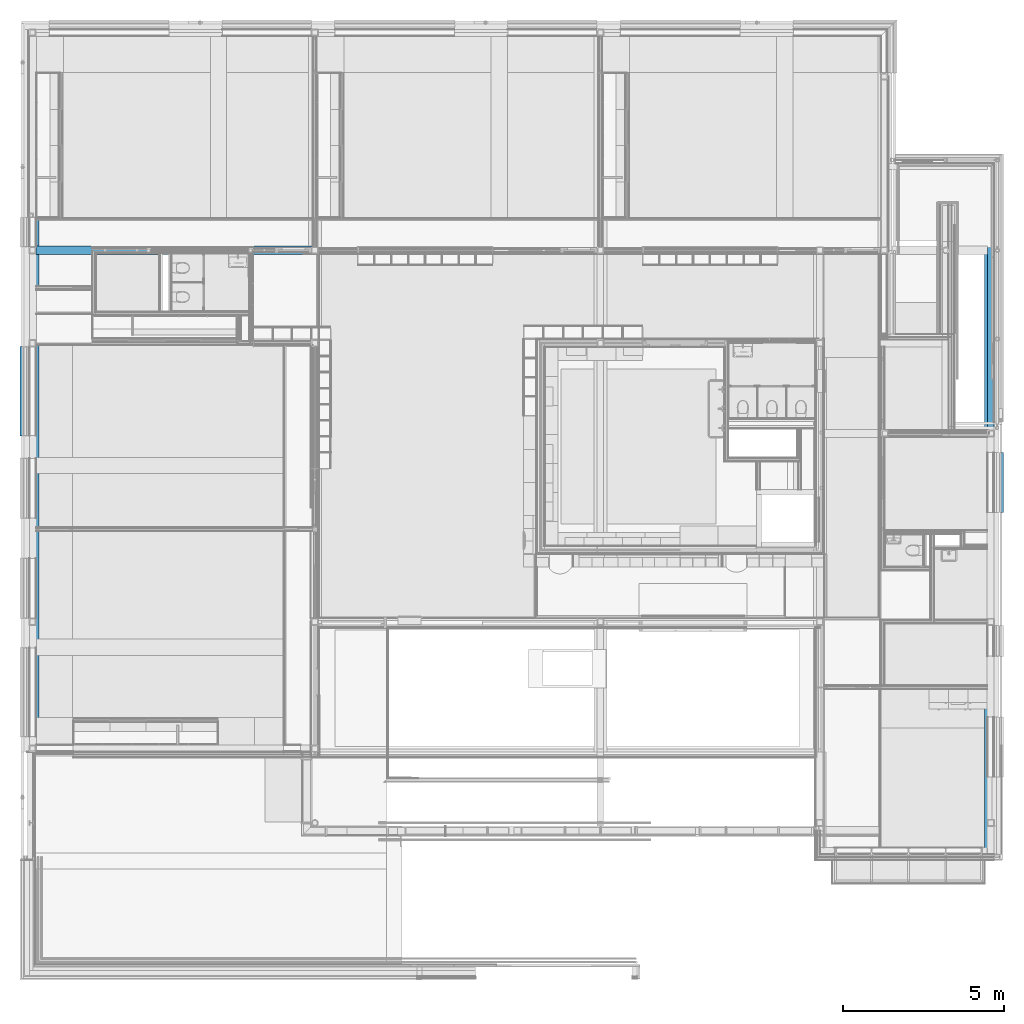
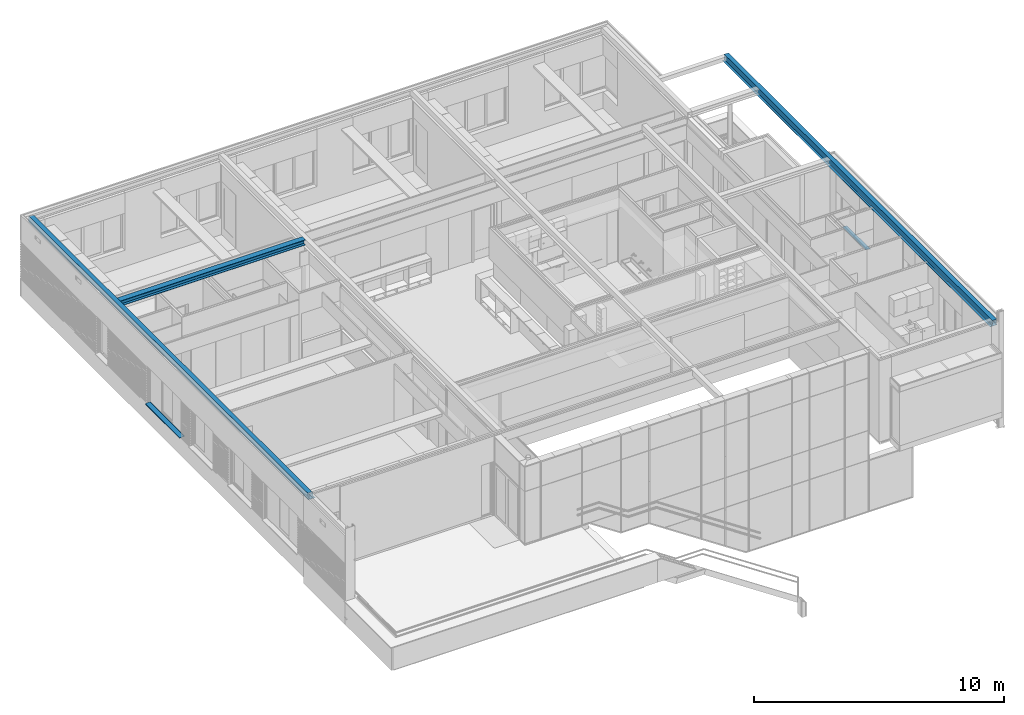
# One storey, part 21 of 137: 5 beams.
"""IFC2X3 building model written with IfcOpenShell, lengths in millimetres."""

from ifc_helpers import new_model, entity, si_unit, converted_unit, derived_unit, money_unit, direction, frame, origin_with_axes, place, context, subcontext, project, spatial, faceted_brep, material, type_object, element, save


model = new_model("IFC2X3")

# Units and contexts
model_context = context("Model", 3, precision=0.01, world=origin_with_axes(), true_north=direction((0.0, 1.0)))
body_context = subcontext(model_context, "Body", "Model", "MODEL_VIEW")
ifc_project = project(units=[si_unit("LENGTHUNIT", "METRE", prefix="MILLI"), si_unit("AREAUNIT", "SQUARE_METRE"), si_unit("VOLUMEUNIT", "CUBIC_METRE"), converted_unit("PLANEANGLEUNIT", "DEGREE", entity("IfcPlaneAngleMeasure", 0.0174532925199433), si_unit("PLANEANGLEUNIT", "RADIAN"), dimensions=[0, 0, 0, 0, 0, 0, 0]), money_unit("EUR"), converted_unit("TIMEUNIT", "Year", entity("IfcTimeMeasure", 31556926.0), si_unit("TIMEUNIT", "SECOND"), dimensions=[0, 0, 1, 0, 0, 0, 0]), si_unit("MASSUNIT", "GRAM", prefix="KILO"), si_unit("THERMODYNAMICTEMPERATUREUNIT", "DEGREE_CELSIUS"), si_unit("LUMINOUSINTENSITYUNIT", "LUMEN"), si_unit("ENERGYUNIT", "JOULE", prefix="MEGA"), derived_unit("THERMALCONDUCTANCEUNIT", [(si_unit("POWERUNIT", "WATT"), 1), (si_unit("LENGTHUNIT", "METRE"), -1), (si_unit("THERMODYNAMICTEMPERATUREUNIT", "KELVIN"), -1)]), derived_unit("SPECIFICHEATCAPACITYUNIT", [(si_unit("ENERGYUNIT", "JOULE"), 1), (si_unit("MASSUNIT", "GRAM", prefix="KILO"), -1), (si_unit("THERMODYNAMICTEMPERATUREUNIT", "KELVIN"), -1)]), derived_unit("MASSDENSITYUNIT", [(si_unit("MASSUNIT", "GRAM", prefix="KILO"), 1), (si_unit("VOLUMEUNIT", "CUBIC_METRE"), -1)])], contexts=[model_context])

# Site, building, storey
site_placement = place(None, origin_with_axes())
site = spatial("IfcSite", under=ifc_project, at=site_placement, Name="Site", CompositionType="ELEMENT")
building_placement = place(site_placement, origin_with_axes())
building = spatial("IfcBuilding", under=site, at=building_placement, Name="Naam gebouw", CompositionType="ELEMENT")
storey_placement = place(building_placement, frame((0.0, 0.0, 3960.0), z_axis=(0.0, 0.0, 1.0), x_axis=(1.0, 0.0, 0.0)))
storey = spatial("IfcBuildingStorey", under=building, at=storey_placement, Name="1e verdieping", CompositionType="ELEMENT", Elevation=3960.0)

# Beams
ifc_material_1 = material(Name="Metaal - Staal C")
beam_type_1 = type_object("IfcBeamType", Name="HEB260 260 x 260", PredefinedType="BEAM")
beam_1_placement = place(storey_placement, frame((201.0000004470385, 22324.97621406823, 3730.0), z_axis=(0.0, 0.0, 1.0), x_axis=(0.0, -1.0, 0.0)))
element("IfcBeam", 1, at=beam_1_placement, inside=storey, type_object=beam_type_1, material=ifc_material_1, Name="h METAAL_Regenwaterafvoer-x", ObjectType="BEAM", context=body_context, shape_type="Brep", body=[
    faceted_brep([(4.999999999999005, 0.0, -112.4999999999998), (4.999999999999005, 3575.040446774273, -112.4999999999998), (4.999999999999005, 3599.989462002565, -92.69061219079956), (4.999999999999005, 3615.718012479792, -112.4999999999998), (4.999999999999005, 8548.01097105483, -112.4999999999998), (4.999999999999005, 8548.01097105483, 112.4999999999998), (4.999999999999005, 0.0, 112.4999999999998), (15.00000000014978, 3615.718012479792, -112.4999999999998), (15.00000000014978, 3575.040446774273, -112.4999999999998), (129.999999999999, 0.0, -112.4999999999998), (129.999999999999, 8548.01097105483, -112.4999999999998), (1.49213974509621e-10, 3599.989462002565, -92.69061219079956), (15.00000000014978, 3552.999999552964, -129.9999999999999), (1.49213974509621e-10, 3552.999999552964, -129.9999999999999), (1.49213974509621e-10, 3629.61292109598, -129.9999999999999), (15.00000000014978, 3629.61292109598, -129.9999999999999), (-4.999999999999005, 8548.01097105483, -112.4999999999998), (-4.999999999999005, 8548.01097105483, 112.4999999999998), (-129.999999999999, 8548.01097105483, 112.4999999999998), (-129.999999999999, 8548.01097105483, 129.9999999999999), (129.999999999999, 8548.01097105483, 129.9999999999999), (129.999999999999, 8548.01097105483, 112.4999999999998), (129.999999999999, 8548.01097105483, -129.9999999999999), (-129.999999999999, 8548.01097105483, -129.9999999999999), (-129.999999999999, 8548.01097105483, -112.4999999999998), (129.999999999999, 0.0, 112.4999999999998), (129.999999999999, 0.0, 129.9999999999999), (-129.999999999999, 0.0, 129.9999999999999), (-129.999999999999, 0.0, 112.4999999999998), (-4.999999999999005, 0.0, 112.4999999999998), (-4.999999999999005, 0.0, -112.4999999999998), (-129.999999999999, 0.0, -112.4999999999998), (-129.999999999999, 0.0, -129.9999999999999), (129.999999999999, 0.0, -129.9999999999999), (-15.00000000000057, 6593.999999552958, -129.9999999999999), (-15.00000000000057, 6517.387078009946, -129.9999999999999), (0.0, 6517.387078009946, -129.9999999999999), (0.0, 6593.999999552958, -129.9999999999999), (-4.999999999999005, 6571.95955233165, -112.4999999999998), (-4.999999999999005, 6547.01053710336, -92.69061219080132), (-4.999999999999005, 6531.281986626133, -112.4999999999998), (-15.00000000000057, 6531.281986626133, -112.4999999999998), (-15.00000000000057, 6571.959552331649, -112.4999999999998), (0.0, 6547.01053710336, -92.69061219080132)], [[[0, 1, 2, 3, 4, 5, 6]], [[7, 8, 1, 0, 9, 10, 4, 3]], [[11, 2, 1, 8, 12, 13]], [[11, 14, 15, 7, 3, 2]], [[16, 17, 18, 19, 20, 21, 5, 4, 10, 22, 23, 24]], [[21, 25, 6, 5]], [[6, 25, 26, 27, 28, 29, 30, 31, 32, 33, 9, 0]], [[7, 15, 12, 8]], [[10, 9, 33, 22]], [[22, 33, 32, 23], [34, 35, 36, 37], [13, 12, 15, 14]], [[11, 13, 14]], [[16, 38, 39, 40, 30, 29, 17]], [[17, 29, 28, 18]], [[18, 28, 27, 19]], [[19, 27, 26, 20]], [[20, 26, 25, 21]], [[23, 32, 31, 24]], [[31, 30, 40, 41, 42, 38, 16, 24]], [[42, 41, 35, 34]], [[35, 41, 40, 39, 43, 36]], [[36, 43, 37]], [[38, 42, 34, 37, 43, 39]]]),
])
beam_type_2 = type_object("IfcBeamType", Name="28 THQ enkele flens 03 315 x 275", PredefinedType="BEAM")
beam_2_placement = place(storey_placement, frame((29799.99999955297, 3599.999999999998, 3860.000001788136), z_axis=(0.0, 0.0, 1.0), x_axis=(1.0, 0.0, 0.0)))
element("IfcBeam", 2, at=beam_2_placement, inside=storey, type_object=beam_type_2, material=ifc_material_1, Name="h METAAL_Regenwaterafvoer-x", ObjectType="BEAM", context=body_context, shape_type="Brep", body=[
    faceted_brep([(90.0000004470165, 12959.99778166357, -275.0000000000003), (-89.99999955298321, 12959.99778166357, -275.0000000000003), (-89.99999955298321, 13139.99778166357, -275.0000000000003), (90.0000004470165, 13139.99778166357, -275.0000000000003), (90.0000004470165, 12959.99778166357, -264.9999999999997), (-89.99999955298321, 12959.99778166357, -264.9999999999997), (-89.99999955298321, 13139.99778166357, -264.9999999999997), (90.0000004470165, 13139.99778166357, -264.9999999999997)], [[[0, 1, 2, 3]], [[0, 4, 5, 1]], [[1, 5, 6, 2]], [[2, 6, 7, 3]], [[3, 7, 4, 0]], [[6, 5, 4, 7]]]),
    faceted_brep([(90.00000044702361, 7120.000110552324, -275.0000000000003), (-89.9999995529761, 7120.000110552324, -275.0000000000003), (-89.9999995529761, 7300.000110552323, -275.0000000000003), (90.00000044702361, 7300.000110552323, -275.0000000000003), (90.00000044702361, 7120.000110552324, -264.9999999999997), (-89.9999995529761, 7120.000110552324, -264.9999999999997), (-89.9999995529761, 7300.000110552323, -264.9999999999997), (90.00000044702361, 7300.000110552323, -264.9999999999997)], [[[0, 1, 2, 3]], [[0, 4, 5, 1]], [[1, 5, 6, 2]], [[2, 6, 7, 3]], [[3, 7, 4, 0]], [[6, 5, 4, 7]]]),
    faceted_brep([(90.00000044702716, 890.0000000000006, -275.0000000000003), (-89.99999955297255, 890.0000000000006, -275.0000000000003), (-89.99999955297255, 1070.0, -275.0000000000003), (90.00000044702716, 1070.0, -275.0000000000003), (90.00000044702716, 890.0000000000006, -264.9999999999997), (-89.99999955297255, 890.0000000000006, -264.9999999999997), (-89.99999955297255, 1070.0, -264.9999999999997), (90.00000044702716, 1070.0, -264.9999999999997)], [[[0, 1, 2, 3]], [[0, 4, 5, 1]], [[1, 5, 6, 2]], [[2, 6, 7, 3]], [[3, 7, 4, 0]], [[6, 5, 4, 7]]]),
    faceted_brep([(94.99999999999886, 1080.0, -260.0000017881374), (94.99999999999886, 880.0000000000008, -260.0000017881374), (94.99999999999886, 880.0000000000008, -264.9999999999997), (94.99999999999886, 0.0, -264.9999999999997), (94.99999999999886, 0.0, -14.99999999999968), (94.99999999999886, 21424.97621406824, -14.99999999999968), (94.99999999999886, 21424.97621406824, -264.9999999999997), (94.99999999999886, 13149.99778166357, -264.9999999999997), (94.99999999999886, 13149.99778166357, -260.0000017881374), (94.99999999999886, 12949.99778166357, -260.0000017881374), (94.99999999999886, 12949.99778166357, -264.9999999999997), (94.99999999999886, 7310.000110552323, -264.9999999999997), (94.99999999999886, 7310.000110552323, -260.0000017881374), (94.99999999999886, 7110.000110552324, -260.0000017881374), (94.99999999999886, 7110.000110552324, -264.9999999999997), (94.99999999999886, 1080.0, -264.9999999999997), (100.0000004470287, 880.0000000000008, -260.0000017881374), (100.0000004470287, 1080.0, -260.0000017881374), (100.0000004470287, 880.0000000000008, -275.0000000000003), (-99.99999955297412, 880.0000000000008, -275.0000000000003), (-99.99999955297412, 880.0000000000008, -260.0000017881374), (-94.99999999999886, 880.0000000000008, -260.0000017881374), (-94.99999999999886, 880.0000000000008, -264.9999999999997), (-94.99999999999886, 0.0, -264.9999999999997), (-100.9999999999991, 0.0, -264.9999999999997), (-199.0000044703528, 0.0, -264.9999999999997), (-199.0000044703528, 0.0, -275.0000000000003), (115.9999999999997, 0.0, -275.0000000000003), (115.9999999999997, 0.0, -264.9999999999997), (100.9999999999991, 0.0, -264.9999999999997), (100.9999999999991, 0.0, 0.0), (-100.9999999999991, 0.0, 0.0), (-94.99999999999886, 0.0, -14.99999999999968), (-94.99999999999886, 21424.97621406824, -14.99999999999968), (100.9999999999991, 21424.97621406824, 0.0), (100.9999999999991, 21424.97621406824, -264.9999999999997), (115.9999999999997, 21424.97621406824, -264.9999999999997), (115.9999999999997, 21424.97621406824, -275.0000000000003), (-199.0000044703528, 21424.97621406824, -275.0000000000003), (-199.0000044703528, 21424.97621406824, -264.9999999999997), (-100.9999999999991, 21424.97621406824, -264.9999999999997), (-100.9999999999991, 21424.97621406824, 0.0), (-94.99999999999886, 21424.97621406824, -264.9999999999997), (-94.99999999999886, 13149.99778166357, -264.9999999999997), (-99.99999955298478, 13149.99778166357, -260.0000017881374), (-99.99999955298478, 13149.99778166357, -275.0000000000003), (100.0000004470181, 13149.99778166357, -275.0000000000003), (100.0000004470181, 13149.99778166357, -260.0000017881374), (-94.99999999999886, 13149.99778166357, -260.0000017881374), (100.0000004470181, 12949.99778166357, -260.0000017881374), (100.0000004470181, 12949.99778166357, -275.0000000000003), (-99.99999955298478, 12949.99778166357, -275.0000000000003), (-99.99999955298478, 12949.99778166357, -260.0000017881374), (-94.99999999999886, 12949.99778166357, -260.0000017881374), (-94.99999999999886, 12949.99778166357, -264.9999999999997), (-94.99999999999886, 7310.000110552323, -264.9999999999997), (-99.99999955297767, 7310.000110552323, -260.0000017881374), (-99.99999955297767, 7310.000110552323, -275.0000000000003), (100.0000004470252, 7310.000110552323, -275.0000000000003), (100.0000004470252, 7310.000110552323, -260.0000017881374), (-94.99999999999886, 7310.000110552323, -260.0000017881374), (100.0000004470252, 7110.000110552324, -260.0000017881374), (100.0000004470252, 7110.000110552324, -275.0000000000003), (-99.99999955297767, 7110.000110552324, -275.0000000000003), (-99.99999955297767, 7110.000110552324, -260.0000017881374), (-94.99999999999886, 7110.000110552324, -260.0000017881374), (-94.99999999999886, 7110.000110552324, -264.9999999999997), (-94.99999999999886, 1080.0, -264.9999999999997), (-99.99999955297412, 1080.0, -260.0000017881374), (-99.99999955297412, 1080.0, -275.0000000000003), (100.0000004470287, 1080.0, -275.0000000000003), (-94.99999999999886, 1080.0, -260.0000017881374), (-106.1850666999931, 13064.99778166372, -275.0000000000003), (-173.1113046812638, 13064.99778166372, -275.0000000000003), (-173.1113046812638, 13049.99778166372, -275.0000000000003), (-106.1850666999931, 13049.99778166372, -275.0000000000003), (-118.5551965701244, 13064.99778166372, -264.9999999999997), (-118.5551965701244, 13049.99778166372, -264.9999999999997), (-165.0273151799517, 13049.99778166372, -264.9999999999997), (-165.0273151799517, 13064.99778166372, -264.9999999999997)], [[[0, 1, 2, 3, 4, 5, 6, 7, 8, 9, 10, 11, 12, 13, 14, 15]], [[16, 1, 0, 17]], [[16, 18, 19, 20, 21, 22, 2, 1]], [[3, 2, 22, 23]], [[24, 25, 26, 27, 28, 29, 30, 31], [23, 32, 4, 3]], [[5, 4, 32, 33]], [[34, 35, 36, 37, 38, 39, 40, 41], [5, 33, 42, 6]], [[42, 43, 7, 6]], [[44, 45, 46, 47, 8, 7, 43, 48]], [[49, 9, 8, 47]], [[49, 50, 51, 52, 53, 54, 10, 9]], [[54, 55, 11, 10]], [[56, 57, 58, 59, 12, 11, 55, 60]], [[61, 13, 12, 59]], [[61, 62, 63, 64, 65, 66, 14, 13]], [[66, 67, 15, 14]], [[68, 69, 70, 17, 0, 15, 67, 71]], [[17, 70, 18, 16]], [[37, 27, 26, 38], [72, 73, 74, 75], [45, 51, 50, 46], [57, 63, 62, 58], [69, 19, 18, 70]], [[20, 19, 69, 68]], [[68, 71, 21, 20]], [[21, 71, 67, 66, 65, 60, 55, 54, 53, 48, 43, 42, 33, 32, 23, 22]], [[39, 25, 24, 40], [76, 77, 78, 79]], [[38, 26, 25, 39]], [[36, 28, 27, 37]], [[35, 29, 28, 36]], [[34, 30, 29, 35]], [[41, 31, 30, 34]], [[40, 24, 31, 41]], [[52, 51, 45, 44]], [[47, 46, 50, 49]], [[44, 48, 53, 52]], [[64, 63, 57, 56]], [[59, 58, 62, 61]], [[56, 60, 65, 64]], [[76, 79, 73, 72]], [[74, 73, 79, 78]], [[78, 77, 75, 74]], [[77, 76, 72, 75]]]),
])
beam_3_placement = place(storey_placement, frame((100.0000004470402, 29175.0, 3860.000001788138), z_axis=(0.0, 0.0, 1.0), x_axis=(-1.0, 0.0, 0.0)))
element("IfcBeam", 3, at=beam_3_placement, inside=storey, type_object=beam_type_2, material=ifc_material_1, Name="h METAAL_Regenwaterafvoer-x", ObjectType="BEAM", context=body_context, shape_type="Brep", body=[
    faceted_brep([(-89.99999955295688, 22385.0, -275.0000000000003), (90.0000004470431, 22385.0, -275.0000000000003), (90.00000044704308, 22205.0, -275.0000000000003), (-89.99999955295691, 22205.0, -275.0000000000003), (-89.99999955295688, 22385.0, -264.9999999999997), (90.0000004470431, 22385.0, -264.9999999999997), (90.00000044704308, 22205.0, -264.9999999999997), (-89.99999955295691, 22205.0, -264.9999999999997)], [[[0, 1, 2, 3]], [[0, 4, 5, 1]], [[1, 5, 6, 2]], [[2, 6, 7, 3]], [[3, 7, 4, 0]], [[6, 5, 4, 7]]]),
    faceted_brep([(-89.99999955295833, 9815.000188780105, -275.0000000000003), (90.00000044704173, 9815.000188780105, -275.0000000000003), (90.0000004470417, 9635.000188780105, -275.0000000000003), (-89.99999955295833, 9635.000188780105, -275.0000000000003), (-89.99999955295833, 9815.000188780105, -264.9999999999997), (90.00000044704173, 9815.000188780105, -264.9999999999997), (90.0000004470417, 9635.000188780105, -264.9999999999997), (-89.99999955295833, 9635.000188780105, -264.9999999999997)], [[[0, 1, 2, 3]], [[0, 4, 5, 1]], [[1, 5, 6, 2]], [[2, 6, 7, 3]], [[3, 7, 4, 0]], [[6, 5, 4, 7]]]),
    faceted_brep([(-89.99999955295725, 18454.99988944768, -275.0000000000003), (90.0000004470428, 18454.99988944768, -275.0000000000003), (90.00000044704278, 18274.99988944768, -275.0000000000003), (-89.99999955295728, 18274.99988944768, -275.0000000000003), (-89.99999955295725, 18454.99988944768, -264.9999999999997), (90.0000004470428, 18454.99988944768, -264.9999999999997), (90.00000044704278, 18274.99988944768, -264.9999999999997), (-89.99999955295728, 18274.99988944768, -264.9999999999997)], [[[0, 1, 2, 3]], [[0, 4, 5, 1]], [[1, 5, 6, 2]], [[2, 6, 7, 3]], [[3, 7, 4, 0]], [[6, 5, 4, 7]]]),
    faceted_brep([(-89.99999955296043, 6940.000152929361, -275.0000000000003), (90.0000004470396, 6940.000152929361, -275.0000000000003), (90.00000044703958, 6760.000152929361, -275.0000000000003), (-89.99999955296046, 6760.000152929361, -275.0000000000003), (-89.99999955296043, 6940.000152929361, -264.9999999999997), (90.0000004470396, 6940.000152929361, -264.9999999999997), (90.00000044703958, 6760.000152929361, -264.9999999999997), (-89.99999955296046, 6760.000152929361, -264.9999999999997)], [[[0, 1, 2, 3]], [[0, 4, 5, 1]], [[1, 5, 6, 2]], [[2, 6, 7, 3]], [[3, 7, 4, 0]], [[6, 5, 4, 7]]]),
    faceted_brep([(-89.9999995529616, 190.0000000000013, -275.0000000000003), (90.00000044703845, 190.0000000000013, -275.0000000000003), (90.00000044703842, 10.00000000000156, -275.0000000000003), (-89.99999955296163, 10.00000000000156, -275.0000000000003), (-89.9999995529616, 190.0000000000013, -264.9999999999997), (90.00000044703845, 190.0000000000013, -264.9999999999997), (90.00000044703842, 10.00000000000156, -264.9999999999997), (-89.99999955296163, 10.00000000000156, -264.9999999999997)], [[[0, 1, 2, 3]], [[0, 4, 5, 1]], [[1, 5, 6, 2]], [[2, 6, 7, 3]], [[3, 7, 4, 0]], [[6, 5, 4, 7]]]),
    faceted_brep([(-199.0000044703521, 0.0, -275.0000000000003), (-99.99999955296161, 0.0, -275.0000000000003), (-99.99999955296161, 0.0, -260.0000017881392), (-101.0000000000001, 0.0, -260.0000017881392), (-101.0000000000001, 0.0, -264.9999999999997), (-199.0000044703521, 0.0, -264.9999999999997), (100.0000004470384, 200.0000000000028, -275.0000000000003), (-99.99999955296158, 200.0000000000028, -275.0000000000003), (-199.0000044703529, 22395.00000000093, -275.0000000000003), (-99.9999995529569, 22395.0, -275.0000000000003), (-99.99999955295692, 22195.0, -275.0000000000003), (100.0000004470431, 22195.0, -275.0000000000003), (100.0000004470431, 22395.0, -275.0000000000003), (115.9999999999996, 22395.00000000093, -275.0000000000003), (116.0000000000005, 411.6161418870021, -275.0000000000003), (115.0000004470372, 411.6161418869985, -275.0000000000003), (115.0000004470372, 202.1517064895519, -275.0000000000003), (116.0000000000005, 202.1517064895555, -275.0000000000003), (116.0000000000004, 0.0, -275.0000000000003), (100.0000004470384, 0.0, -275.0000000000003), (115.0000004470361, 5452.816600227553, -275.0000000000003), (115.0000004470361, 5662.281035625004, -275.0000000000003), (100.0000004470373, 5662.281035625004, -275.0000000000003), (100.0000004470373, 5452.816600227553, -275.0000000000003), (100.000000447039, 5705.000152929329, -275.0000000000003), (100.000000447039, 5825.000152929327, -275.0000000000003), (-19.99999955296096, 5825.000152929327, -275.0000000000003), (-19.99999955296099, 5705.000152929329, -275.0000000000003), (100.0000004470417, 9625.000188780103, -275.0000000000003), (100.0000004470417, 9825.000188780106, -275.0000000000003), (-99.99999955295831, 9825.000188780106, -275.0000000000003), (-99.99999955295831, 9625.000188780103, -275.0000000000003), (100.0000004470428, 18264.99988944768, -275.0000000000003), (100.0000004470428, 18464.99988944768, -275.0000000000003), (-99.99999955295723, 18464.99988944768, -275.0000000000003), (-99.99999955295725, 18264.99988944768, -275.0000000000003), (100.0000004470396, 6750.00015292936, -275.0000000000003), (100.0000004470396, 6950.000152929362, -275.0000000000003), (-99.99999955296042, 6950.000152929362, -275.0000000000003), (-99.99999955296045, 6750.00015292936, -275.0000000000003), (-99.99999955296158, 200.0000000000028, -260.0000017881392), (-99.99999955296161, 89.99999999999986, -260.0000017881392), (-100.9999999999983, 89.99999999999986, -260.0000017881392), (-100.9999999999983, 10.00000000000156, -246.000001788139), (-100.9999999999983, 10.00000000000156, -14.00000178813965), (-100.9999999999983, 89.99999999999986, -14.00000178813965), (-101.0000000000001, 89.99999999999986, -1.788139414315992e-06), (-100.9999999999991, 22305.00000000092, -1.550729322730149e-06), (-100.9999999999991, 22305.00000000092, -14.00000178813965), (-100.9999999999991, 22385.00000000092, -14.00000178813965), (-100.9999999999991, 22385.00000000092, -246.000001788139), (-100.9999999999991, 22305.00000000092, -246.000001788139), (-100.9999999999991, 22305.00000000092, -260.0000017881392), (-100.9999999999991, 22395.00000000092, -260.0000017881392), (-100.9999999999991, 22395.00000000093, -264.9999999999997), (-100.9999999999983, 89.99999999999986, -246.000001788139), (-199.0000044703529, 22395.00000000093, -264.9999999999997), (100.0000004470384, 200.0000000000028, -260.0000017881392), (94.99999999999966, 200.0000000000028, -260.0000017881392), (94.99999999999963, 200.0000000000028, -264.9999999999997), (-94.99999999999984, 200.0000000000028, -264.9999999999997), (-94.99999999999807, 200.0000000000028, -260.0000017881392), (-99.9999995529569, 22395.0, -260.0000017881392), (-99.99999955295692, 22195.0, -260.0000017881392), (-99.9999995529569, 22305.00000000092, -260.0000017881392), (100.0000004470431, 22195.0, -260.0000017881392), (-94.9999999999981, 22195.0, -260.0000017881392), (-94.99999999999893, 22195.0, -264.9999999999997), (94.99999999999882, 22195.0, -264.9999999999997), (94.99999999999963, 22195.0, -260.0000017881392), (100.0000004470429, 22395.00000000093, -1.788139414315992e-06), (100.0000004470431, 22305.00000000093, -260.0000017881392), (100.0000004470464, 22305.00000000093, -246.000001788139), (100.0000004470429, 22385.00000000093, -246.000001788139), (100.0000004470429, 22385.00000000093, -14.00000178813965), (100.0000004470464, 22305.00000000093, -14.00000178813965), (100.0000004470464, 22305.00000000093, -1.788139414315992e-06), (100.999999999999, 22395.00000000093, 0.0), (100.999999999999, 22395.00000000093, -264.9999999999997), (115.9999999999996, 22395.00000000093, -264.9999999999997), (116.0000000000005, 397.3091530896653, -264.9999999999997), (115.0000004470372, 397.3091530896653, -264.9999999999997), (115.0000004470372, 187.8447176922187, -264.9999999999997), (116.0000000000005, 187.8447176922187, -264.9999999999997), (116.0000000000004, 0.0, -264.9999999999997), (100.0000004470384, 0.0, -1.788139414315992e-06), (100.9999999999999, 0.0, -264.9999999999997), (100.9999999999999, 0.0, 0.0), (100.0000004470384, 89.99999999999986, -246.000001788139), (100.0000004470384, 89.99999999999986, -260.0000017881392), (100.0000004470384, 89.99999999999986, -1.788139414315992e-06), (100.0000004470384, 89.99999999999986, -14.00000178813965), (100.0000004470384, 10.00000000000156, -14.00000178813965), (100.0000004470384, 10.00000000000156, -246.000001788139), (115.0000004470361, 5676.58802442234, -264.9999999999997), (115.0000004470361, 5467.123589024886, -264.9999999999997), (101.0000000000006, 5676.58802442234, -264.9999999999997), (101.0000000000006, 5799.373529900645, -179.1779537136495), (100.0000004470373, 5799.373529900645, -179.1779537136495), (100.0000004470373, 5730.626775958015, -80.82204986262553), (101.0000000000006, 5730.626775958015, -80.82204986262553), (101.0000000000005, 5467.12358902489, -264.9999999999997), (100.000000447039, 5825.000152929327, -260.0000017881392), (100.000000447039, 5705.000152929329, -260.0000017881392), (94.99999999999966, 5825.000152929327, -260.0000017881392), (94.99999999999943, 5825.000152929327, -264.9999999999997), (-19.99999955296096, 5825.000152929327, -264.9999999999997), (-19.99999955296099, 5705.000152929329, -264.9999999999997), (94.99999999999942, 5705.000152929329, -264.9999999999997), (94.99999999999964, 5705.000152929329, -260.0000017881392), (100.0000004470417, 9825.000188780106, -260.0000017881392), (100.0000004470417, 9625.000188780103, -260.0000017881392), (-99.99999955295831, 9825.000188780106, -260.0000017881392), (94.99999999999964, 9825.000188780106, -260.0000017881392), (94.99999999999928, 9825.000188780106, -264.9999999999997), (-94.99999999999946, 9825.000188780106, -264.9999999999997), (-94.9999999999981, 9825.000188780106, -260.0000017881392), (-99.99999955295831, 9625.000188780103, -260.0000017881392), (-94.99999999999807, 9625.000188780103, -260.0000017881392), (-94.99999999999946, 9625.000188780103, -264.9999999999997), (94.99999999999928, 9625.000188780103, -264.9999999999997), (94.99999999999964, 9625.000188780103, -260.0000017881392), (100.0000004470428, 18464.99988944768, -260.0000017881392), (100.0000004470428, 18264.99988944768, -260.0000017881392), (-99.99999955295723, 18464.99988944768, -260.0000017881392), (94.99999999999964, 18464.99988944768, -260.0000017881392), (94.99999999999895, 18464.99988944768, -264.9999999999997), (-94.99999999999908, 18464.99988944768, -264.9999999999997), (-94.99999999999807, 18464.99988944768, -260.0000017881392), (-99.99999955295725, 18264.99988944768, -260.0000017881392), (-94.99999999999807, 18264.99988944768, -260.0000017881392), (-94.99999999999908, 18264.99988944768, -264.9999999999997), (94.99999999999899, 18264.99988944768, -264.9999999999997), (94.99999999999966, 18264.99988944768, -260.0000017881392), (100.0000004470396, 6950.000152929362, -260.0000017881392), (100.0000004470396, 6750.00015292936, -260.0000017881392), (-99.99999955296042, 6950.000152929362, -260.0000017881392), (94.99999999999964, 6950.000152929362, -260.0000017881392), (94.99999999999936, 6950.000152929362, -264.9999999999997), (-94.99999999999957, 6950.000152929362, -264.9999999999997), (-94.99999999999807, 6950.000152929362, -260.0000017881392), (-99.99999955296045, 6750.00015292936, -260.0000017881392), (-94.9999999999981, 6750.00015292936, -260.0000017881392), (-94.99999999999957, 6750.00015292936, -264.9999999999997), (94.9999999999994, 6750.00015292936, -264.9999999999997), (94.99999999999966, 6750.00015292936, -260.0000017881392), (-94.9999999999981, 89.99999999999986, -260.0000017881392), (-94.9999999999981, 89.99999999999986, -246.000001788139), (-94.9999999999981, 10.00000000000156, -246.000001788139), (-94.99999999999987, 9.999999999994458, -14.99999999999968), (94.99999999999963, 9.999999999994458, -14.99999999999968), (94.99999999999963, 10.00000000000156, -246.000001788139), (94.99999999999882, 22385.00000000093, -14.99999999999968), (-94.9999999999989, 22385.00000000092, -14.99999999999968), (-94.9999999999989, 22385.00000000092, -246.000001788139), (94.99999999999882, 22385.00000000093, -246.000001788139), (-94.9999999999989, 22305.00000000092, -246.000001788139), (-94.9999999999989, 22305.00000000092, -260.0000017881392), (94.99999999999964, 89.99999999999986, -260.0000017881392), (94.99999999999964, 89.99999999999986, -246.000001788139), (94.9999999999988, 22305.00000000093, -246.000001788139), (94.9999999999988, 22305.00000000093, -260.0000017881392)], [[[0, 1, 2, 3, 4, 5]], [[6, 7, 1, 0, 8, 9, 10, 11, 12, 13, 14, 15, 16, 17, 18, 19], [20, 21, 22, 23], [24, 25, 26, 27], [28, 29, 30, 31], [32, 33, 34, 35], [36, 37, 38, 39]], [[40, 41, 2, 1, 7]], [[3, 2, 41, 42]], [[43, 44, 45, 46, 47, 48, 49, 50, 51, 52, 53, 54, 4, 3, 42, 55]], [[54, 56, 5, 4]], [[56, 8, 0, 5]], [[40, 7, 6, 57, 58, 59, 60, 61]], [[53, 62, 9, 8, 56, 54]], [[63, 10, 9, 62, 64]], [[65, 11, 10, 63, 66, 67, 68, 69]], [[70, 12, 11, 65, 71, 72, 73, 74, 75, 76]], [[13, 12, 70, 77, 78, 79]], [[13, 79, 80, 14]], [[15, 14, 80, 81]], [[16, 15, 81, 82]], [[17, 16, 82, 83]], [[84, 18, 17, 83]], [[85, 19, 18, 84, 86, 87]], [[88, 89, 57, 6, 19, 85, 90, 91, 92, 93]], [[94, 21, 20, 95]], [[21, 94, 96, 97, 98, 22]], [[99, 23, 22, 98]], [[23, 99, 100, 101, 95, 20]], [[102, 25, 24, 103]], [[104, 105, 106, 26, 25, 102]], [[26, 106, 107, 27]], [[27, 107, 108, 109, 103, 24]], [[110, 29, 28, 111]], [[112, 30, 29, 110, 113, 114, 115, 116]], [[117, 31, 30, 112]], [[111, 28, 31, 117, 118, 119, 120, 121]], [[122, 33, 32, 123]], [[124, 34, 33, 122, 125, 126, 127, 128]], [[129, 35, 34, 124]], [[123, 32, 35, 129, 130, 131, 132, 133]], [[134, 37, 36, 135]], [[136, 38, 37, 134, 137, 138, 139, 140]], [[141, 39, 38, 136]], [[135, 36, 39, 141, 142, 143, 144, 145]], [[61, 146, 41, 40]], [[42, 41, 146, 147, 55]], [[93, 92, 44, 43, 148, 149, 150, 151]], [[92, 91, 45, 44]], [[45, 91, 90, 46]], [[47, 46, 90, 85, 87, 77, 70, 76]], [[47, 76, 75, 48]], [[48, 75, 74, 49]], [[152, 153, 154, 50, 49, 74, 73, 155]], [[50, 154, 156, 51]], [[156, 157, 64, 52, 51]], [[52, 64, 62, 53]], [[147, 148, 43, 55]], [[57, 89, 158, 58]], [[59, 58, 158, 159, 151, 150, 152, 155, 160, 161, 69, 68, 126, 125, 133, 132, 114, 113, 121, 120, 138, 137, 145, 144, 105, 104, 109, 108]], [[143, 60, 59, 108, 107, 106, 105, 144]], [[146, 61, 60, 143, 142, 140, 139, 119, 118, 116, 115, 131, 130, 128, 127, 67, 66, 157, 156, 154, 153, 149, 148, 147]], [[63, 64, 157, 66]], [[67, 127, 126, 68]], [[65, 69, 161, 71]], [[72, 71, 161, 160]], [[155, 73, 72, 160]], [[77, 87, 86, 101, 100, 97, 96, 78]], [[81, 80, 79, 78, 96, 94, 95, 101, 86, 84, 83, 82]], [[159, 158, 89, 88]], [[88, 93, 151, 159]], [[98, 97, 100, 99]], [[103, 109, 104, 102]], [[111, 121, 113, 110]], [[114, 132, 131, 115]], [[112, 116, 118, 117]], [[119, 139, 138, 120]], [[123, 133, 125, 122]], [[124, 128, 130, 129]], [[135, 145, 137, 134]], [[136, 140, 142, 141]], [[153, 152, 150, 149]]]),
])
ifc_material_2 = material(Name="Metaal - Aluminium")
beam_type_3 = type_object("IfcBeamType", Name="41 Waterslag 218 x 75", PredefinedType="BEAM")
beam_4_placement = place(storey_placement, frame((30149.99999999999, 16065.99778166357, 750.0), z_axis=(0.0, 0.0, 1.0), x_axis=(-1.0, 0.0, 0.0)))
element("IfcBeam", 4, at=beam_4_placement, inside=storey, type_object=beam_type_3, material=ifc_material_2, Name="h4 Aluminium, aluminiumlegeringen_Regenwaterafvoer-x", ObjectType="BEAM", context=body_context, shape_type="Brep", body=[
    faceted_brep([(178.0000000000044, 0.0, 49.99999999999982), (178.0000000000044, 1870.000000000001, 49.99999999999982), (175.0000000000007, 1870.000000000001, 49.99999999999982), (175.0000000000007, 0.0, 49.99999999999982), (177.9999999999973, 0.0, 27.27462510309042), (177.9999999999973, 1870.000000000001, 27.27462510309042), (-36.99999999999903, 1870.000000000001, 12.08231741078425), (-36.99999999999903, 1870.000000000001, -21.99999999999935), (-21.99999999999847, 1870.000000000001, -21.99999999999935), (-21.99999999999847, 1870.000000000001, -24.99999999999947), (-39.99999999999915, 1870.000000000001, -24.99999999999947), (-39.99999999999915, 1870.000000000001, 15.00000000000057), (175.0000000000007, 1870.000000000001, 30.00000000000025), (175.0000000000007, 0.0, 30.00000000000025), (-39.99999999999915, 0.0, 15.00000000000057), (-39.99999999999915, 0.0, -24.99999999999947), (-21.99999999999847, 0.0, -24.99999999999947), (-21.99999999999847, 0.0, -21.99999999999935), (-36.99999999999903, 0.0, -21.99999999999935), (-36.99999999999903, 0.0, 12.08231741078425)], [[[0, 1, 2, 3]], [[4, 5, 1, 0]], [[2, 1, 5, 6, 7, 8, 9, 10, 11, 12]], [[3, 2, 12, 13]], [[4, 0, 3, 13, 14, 15, 16, 17, 18, 19]], [[19, 6, 5, 4]], [[18, 7, 6, 19]], [[17, 8, 7, 18]], [[16, 9, 8, 17]], [[15, 10, 9, 16]], [[14, 11, 10, 15]], [[13, 12, 11, 14]]]),
])
beam_5_placement = place(storey_placement, frame((-250.0000000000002, 16574.9998112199, 750.0), z_axis=(0.0, 0.0, 1.0), x_axis=(1.0, 0.0, 0.0)))
element("IfcBeam", 5, at=beam_5_placement, inside=storey, type_object=beam_type_3, material=ifc_material_2, Name="h4 Aluminium, aluminiumlegeringen_Regenwaterafvoer-x", ObjectType="BEAM", context=body_context, shape_type="Brep", body=[
    faceted_brep([(178.0000000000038, 0.0, 49.99999999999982), (178.0000000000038, 2769.999999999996, 49.99999999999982), (175.0000000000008, 2769.999999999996, 49.99999999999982), (175.0000000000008, 0.0, 49.99999999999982), (177.9999999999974, 0.0, 27.27462510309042), (177.9999999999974, 2769.999999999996, 27.27462510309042), (-36.99999999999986, 2769.999999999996, 12.08231741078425), (-36.99999999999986, 2769.999999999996, -21.99999999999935), (-21.9999999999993, 2769.999999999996, -21.99999999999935), (-21.9999999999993, 2769.999999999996, -24.99999999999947), (-39.99999999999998, 2769.999999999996, -24.99999999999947), (-39.99999999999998, 2769.999999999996, 15.00000000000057), (175.0000000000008, 2769.999999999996, 30.00000000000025), (175.0000000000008, 0.0, 30.00000000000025), (-39.99999999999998, 0.0, 15.00000000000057), (-39.99999999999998, 0.0, -24.99999999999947), (-21.9999999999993, 0.0, -24.99999999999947), (-21.9999999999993, 0.0, -21.99999999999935), (-36.99999999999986, 0.0, -21.99999999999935), (-36.99999999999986, 0.0, 12.08231741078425)], [[[0, 1, 2, 3]], [[4, 5, 1, 0]], [[2, 1, 5, 6, 7, 8, 9, 10, 11, 12]], [[3, 2, 12, 13]], [[4, 0, 3, 13, 14, 15, 16, 17, 18, 19]], [[19, 6, 5, 4]], [[18, 7, 6, 19]], [[17, 8, 7, 18]], [[16, 9, 8, 17]], [[15, 10, 9, 16]], [[14, 11, 10, 15]], [[13, 12, 11, 14]]]),
])

save(model, "model.ifc")
